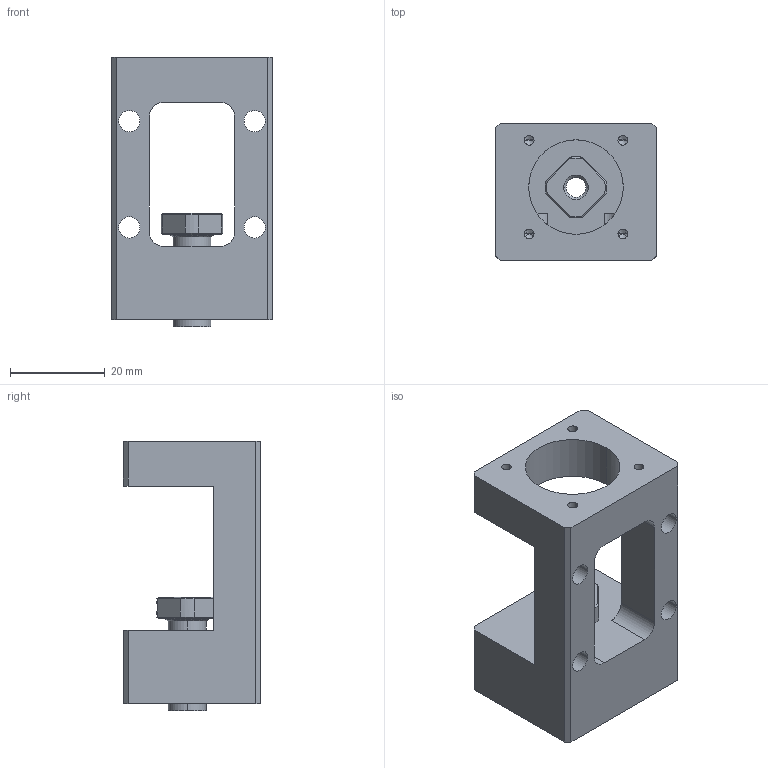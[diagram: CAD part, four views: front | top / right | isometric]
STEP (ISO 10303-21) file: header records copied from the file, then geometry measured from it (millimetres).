
FILE_DESCRIPTION (( 'STEP AP214' ), '1' );
FILE_NAME ('E-SBU-5.25.2.5-P0-C7.STEP', '2026-03-17T10:27:22', ( '决扁浅何厘' ), ( '' ), 'SwSTEP 2.0', 'SolidWorks 2024', '' );
FILE_SCHEMA (( 'AUTOMOTIVE_DESIGN' ));
Length unit declared in the file: millimetre
Products named in the file (6): E-SBU-5.25.2.5-P0-C7; deep groove ball bearing (series 62)_ks_KS B 2023 S62 - 625-S-ZZ; 5 COLLAR; EK-4-5 COVER; RN5; E-SBU-4.25 HOUSING
Assembly tree (7 placements, depth 2):
  E-SBU-5.25.2.5-P0-C7
    E-SBU-4.25 HOUSING
    deep groove ball bearing (series 62)_ks_KS B 2023 S62 - 625-S-ZZ  x2
    EK-4-5 COVER
    5 COLLAR  x2
    RN5
Bounding box: 34 x 29 x 57 mm (x, y, z)
Volume: 25832.3 mm3; surface area: 13755.8 mm2
Topology: 9 solids, 13 shells, 239 faces, 532 edges, 323 vertices
Faces by surface type: cylinder 99, plane 72, torus 40, cone 28
Entity records: 5666 total; most frequent: CARTESIAN_POINT 1132, DIRECTION 989, ORIENTED_EDGE 832, EDGE_CURVE 416, AXIS2_PLACEMENT_3D 400, VERTEX_POINT 259, EDGE_LOOP 223, CIRCLE 205
